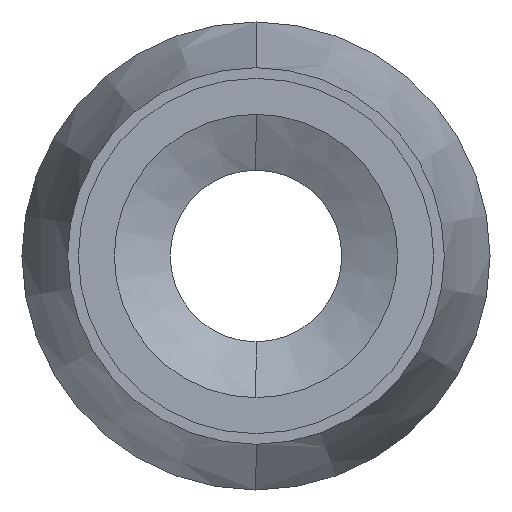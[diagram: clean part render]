
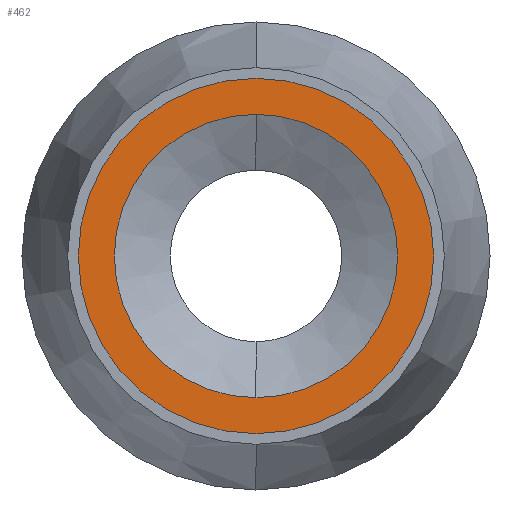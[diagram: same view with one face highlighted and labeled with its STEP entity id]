
A CAD part, left-side view. The second image highlights one B-rep face of the part: STEP entity #462.
In plain terms, the highlighted planar face has unit normal (-1, 0, 0).
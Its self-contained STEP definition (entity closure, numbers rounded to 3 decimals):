
#35 = EDGE_CURVE ( 'NONE', #36, #137, #349, .T. ) ;
#36 = VERTEX_POINT ( 'NONE', #344 ) ;
#137 = VERTEX_POINT ( 'NONE', #563 ) ;
#148 = VERTEX_POINT ( 'NONE', #704 ) ;
#150 = EDGE_CURVE ( 'NONE', #148, #151, #703, .T. ) ;
#151 = VERTEX_POINT ( 'NONE', #698 ) ;
#344 = CARTESIAN_POINT ( 'NONE',  ( 6.06, 0., 4.765 ) ) ;
#345 = DIRECTION ( 'NONE',  ( 0., 0., 1. ) ) ;
#346 = DIRECTION ( 'NONE',  ( -1., 0., 0. ) ) ;
#347 = CARTESIAN_POINT ( 'NONE',  ( 6.06, 0., 0. ) ) ;
#348 = AXIS2_PLACEMENT_3D ( 'NONE', #347, #346, #345 ) ;
#349 = CIRCLE ( 'NONE', #348, 4.765 ) ;
#461 = EDGE_CURVE ( 'NONE', #137, #36, #892, .T. ) ;
#462 = ADVANCED_FACE ( 'NONE', ( #884, #883 ), #882, .F. ) ;
#463 = EDGE_LOOP ( 'NONE', ( #464, #466 ) ) ;
#464 = ORIENTED_EDGE ( 'NONE', *, *, #465, .F. ) ;
#465 = EDGE_CURVE ( 'NONE', #151, #148, #880, .T. ) ;
#466 = ORIENTED_EDGE ( 'NONE', *, *, #150, .F. ) ;
#467 = EDGE_LOOP ( 'NONE', ( #468, #469 ) ) ;
#468 = ORIENTED_EDGE ( 'NONE', *, *, #35, .T. ) ;
#469 = ORIENTED_EDGE ( 'NONE', *, *, #461, .T. ) ;
#563 = CARTESIAN_POINT ( 'NONE',  ( 6.06, 0., -4.765 ) ) ;
#698 = CARTESIAN_POINT ( 'NONE',  ( 6.06, 0., 3.8 ) ) ;
#699 = DIRECTION ( 'NONE',  ( 0., 0., 1. ) ) ;
#700 = DIRECTION ( 'NONE',  ( -1., 0., 0. ) ) ;
#701 = CARTESIAN_POINT ( 'NONE',  ( 6.06, 0., 0. ) ) ;
#702 = AXIS2_PLACEMENT_3D ( 'NONE', #701, #700, #699 ) ;
#703 = CIRCLE ( 'NONE', #702, 3.8 ) ;
#704 = CARTESIAN_POINT ( 'NONE',  ( 6.06, 0., -3.8 ) ) ;
#873 = DIRECTION ( 'NONE',  ( 0., 0., 1. ) ) ;
#874 = DIRECTION ( 'NONE',  ( -1., 0., 0. ) ) ;
#875 = CARTESIAN_POINT ( 'NONE',  ( 6.06, 0., 0. ) ) ;
#876 = AXIS2_PLACEMENT_3D ( 'NONE', #875, #874, #873 ) ;
#877 = DIRECTION ( 'NONE',  ( 0., 0., -1. ) ) ;
#878 = DIRECTION ( 'NONE',  ( 1., 0., 0. ) ) ;
#879 = AXIS2_PLACEMENT_3D ( 'NONE', #881, #878, #877 ) ;
#880 = CIRCLE ( 'NONE', #876, 3.8 ) ;
#881 = CARTESIAN_POINT ( 'NONE',  ( 6.06, 0., 0. ) ) ;
#882 = PLANE ( 'NONE',  #879 ) ;
#883 = FACE_OUTER_BOUND ( 'NONE', #467, .T. ) ;
#884 = FACE_BOUND ( 'NONE', #463, .T. ) ;
#885 = DIRECTION ( 'NONE',  ( 0., 0., 1. ) ) ;
#886 = DIRECTION ( 'NONE',  ( -1., 0., 0. ) ) ;
#887 = CARTESIAN_POINT ( 'NONE',  ( 6.06, 0., 0. ) ) ;
#888 = AXIS2_PLACEMENT_3D ( 'NONE', #887, #886, #885 ) ;
#892 = CIRCLE ( 'NONE', #888, 4.765 ) ;
